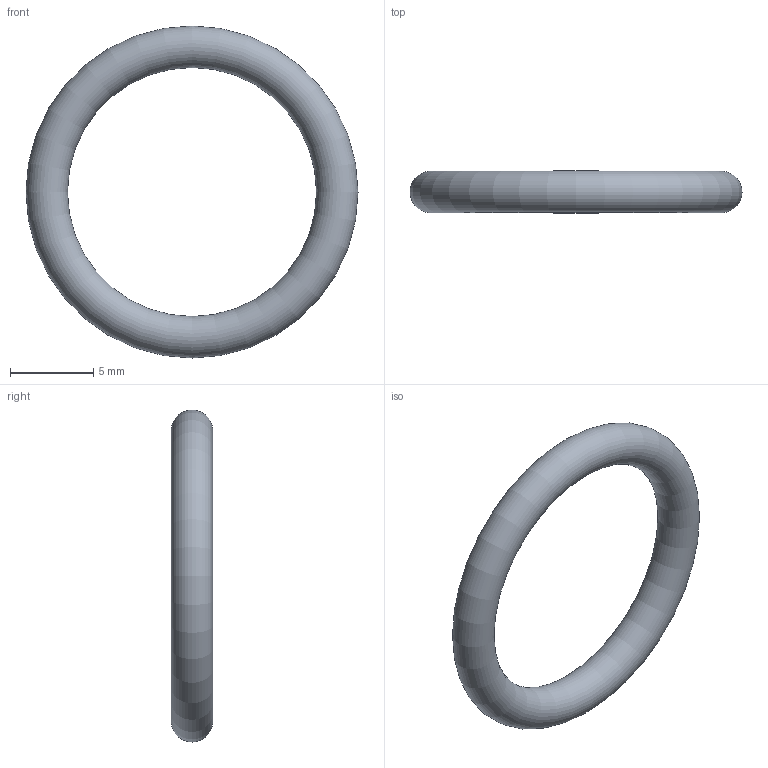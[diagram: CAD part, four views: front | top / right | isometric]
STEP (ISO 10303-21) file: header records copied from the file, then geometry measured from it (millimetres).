
FILE_DESCRIPTION( ( 'STEP AP203' ), '1' );
FILE_NAME( 'C:/Temp/Ganter_Step_05_03_2020/data/3_5/or638/O-Ring OR638-15.00-2.50-70.stp', '2020-03-12T13:44:27', ( 'License CC BY-ND 4.0' ), ( 'CADENAS' ), ' ', 'PARTsolutions', ' ' );
FILE_SCHEMA( ( 'CONFIG_CONTROL_DESIGN' ) );
Length unit declared in the file: millimetre
Products named in the file (1): _O-Ring OR638-15.00-2.50-70
Bounding box: 20 x 2.5 x 20 mm (x, y, z)
Volume: 269.9 mm3; surface area: 431.8 mm2
Topology: 1 solids, 1 shells, 1 faces, 2 edges, 1 vertices
Faces by surface type: torus 1
Entity records: 62 total; most frequent: CC_DESIGN_PERSON_AND_ORGANIZATION_ASSIGNMENT 5, PERSON_AND_ORGANIZATION_ROLE 4, DIRECTION 4, CARTESIAN_POINT 3, DATE_TIME_ROLE 2, CC_DESIGN_DATE_AND_TIME_ASSIGNMENT 2, AXIS2_PLACEMENT_3D 2, DIMENSIONAL_EXPONENTS 2
